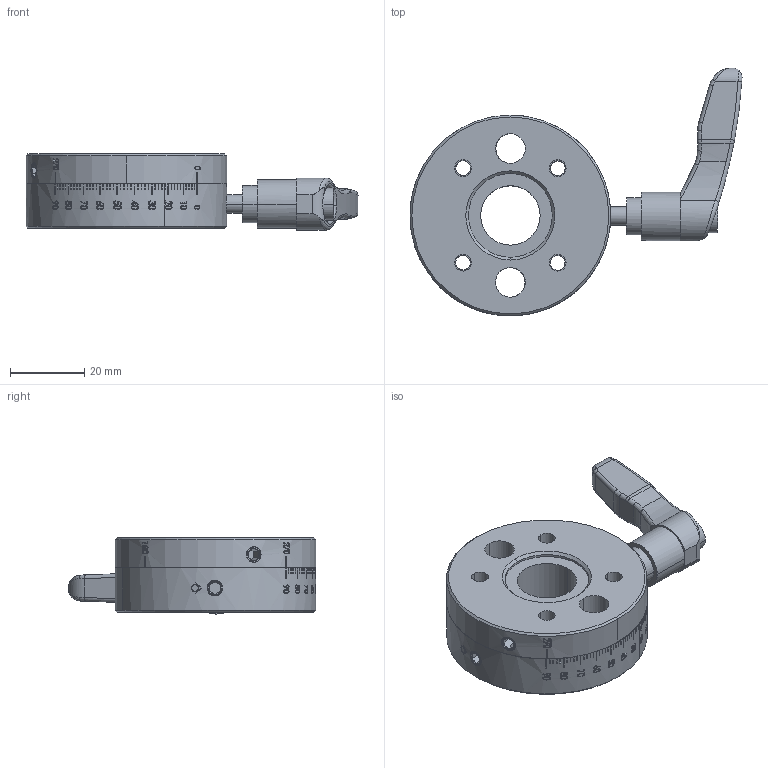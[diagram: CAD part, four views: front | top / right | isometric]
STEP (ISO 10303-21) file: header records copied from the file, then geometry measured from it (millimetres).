
FILE_DESCRIPTION (( 'STEP AP203' ), '1' );
FILE_NAME ('DS08.STEP', '2007-11-14T16:29:12', ( '' ), ( '' ), 'SwSTEP 2.0', 'SolidWorks 2007', '' );
FILE_SCHEMA (( 'CONFIG_CONTROL_DESIGN' ));
Products named in the file (3): DS08-Festteil_n_Standard; DS08-Drehteil_n_Standard; DS08
Assembly tree (2 placements, depth 2):
  DS08
    DS08-Festteil_n_Standard
    DS08-Drehteil_n_Standard
Bounding box: 89.35 x 66.66 x 20.5 mm (x, y, z)
Volume: 41713.9 mm3; surface area: 20378.4 mm2
Topology: 2 solids, 3 shells, 975 faces, 2508 edges, 1641 vertices
Faces by surface type: plane 378, bspline 280, cylinder 265, cone 45, torus 7
Entity records: 63379 total; most frequent: CARTESIAN_POINT 41373, ORIENTED_EDGE 5012, DIRECTION 3641, EDGE_CURVE 2506, VERTEX_POINT 1641, AXIS2_PLACEMENT_3D 1354, EDGE_LOOP 1107, ADVANCED_FACE 975
